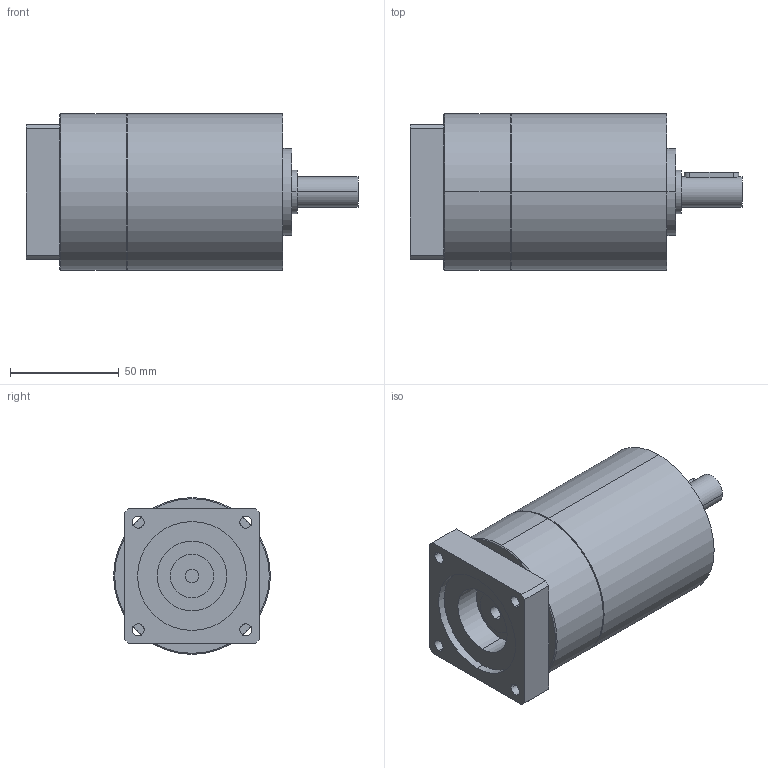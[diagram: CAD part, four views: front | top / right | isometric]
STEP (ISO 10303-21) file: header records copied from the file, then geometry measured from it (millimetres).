
FILE_DESCRIPTION(('CoCreate Modeling STEP Export'),'2;1');
FILE_NAME('GPT75_ig-9-12-16-20-25-28-35-40-50-70-100_14_B14T_6.35_P23.stp','2014-08-27T13:19:30',(''),(''),'CoCreate Modeling STEP processor for AP214 (Solid Model)','CoCreate Modeling 16.00C 25-Feb-2009 (C) Parametric Technology GmbH','');
FILE_SCHEMA(('AUTOMOTIVE_DESIGN { 1 0 10303 214 1 1 1 1 }'));
Length unit declared in the file: millimetre
Products named in the file (2): GPT75_ig-9-12-16-20-25-28-35-40-50-70-100_14_B14T_6.35_P23
Assembly tree (1 placements, depth 2):
  GPT75_ig-9-12-16-20-25-28-35-40-50-70-100_14_B14T_6.35_P23
    GPT75_ig-9-12-16-20-25-28-35-40-50-70-100_14_B14T_6.35_P23
Bounding box: 152.5 x 72 x 72 mm (x, y, z)
Volume: 468190 mm3; surface area: 42240 mm2
Topology: 1 solids, 1 shells, 80 faces, 198 edges, 129 vertices
Faces by surface type: cylinder 42, plane 34, cone 4
Entity records: 2353 total; most frequent: CARTESIAN_POINT 689, ORIENTED_EDGE 396, DIRECTION 276, EDGE_CURVE 198, VERTEX_POINT 129, AXIS2_PLACEMENT_3D 104, EDGE_LOOP 97, FACE_OUTER_BOUND 80
